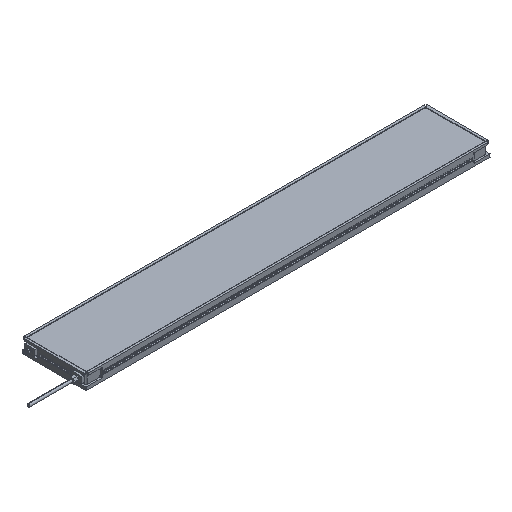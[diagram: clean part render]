
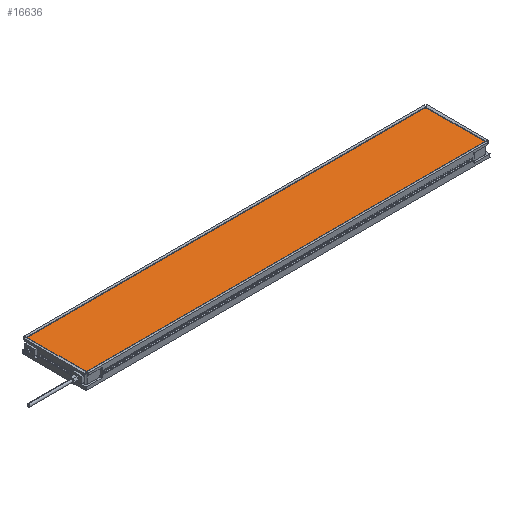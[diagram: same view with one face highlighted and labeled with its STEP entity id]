
A CAD part, isometric view. The second image highlights one B-rep face of the part: STEP entity #16636.
In plain terms, the highlighted planar face has unit normal (0, 0, 1).
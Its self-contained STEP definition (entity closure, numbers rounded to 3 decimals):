
#59 = VERTEX_POINT ( 'NONE', #7379 ) ;
#653 = VECTOR ( 'NONE', #16004, 1000. ) ;
#956 = EDGE_CURVE ( 'NONE', #17287, #59, #13146, .T. ) ;
#1023 = LINE ( 'NONE', #2195, #9323 ) ;
#2058 = EDGE_CURVE ( 'NONE', #14626, #17287, #1023, .T. ) ;
#2195 = CARTESIAN_POINT ( 'NONE',  ( 0., 4., 41.85 ) ) ;
#3042 = VECTOR ( 'NONE', #17516, 1000. ) ;
#4092 = ORIENTED_EDGE ( 'NONE', *, *, #16321, .T. ) ;
#4156 = VECTOR ( 'NONE', #14420, 1000. ) ;
#4594 = ORIENTED_EDGE ( 'NONE', *, *, #15282, .T. ) ;
#4622 = DIRECTION ( 'NONE',  ( -1., 0., 0. ) ) ;
#6026 = LINE ( 'NONE', #11600, #4156 ) ;
#6188 = FACE_OUTER_BOUND ( 'NONE', #17031, .T. ) ;
#6207 = CARTESIAN_POINT ( 'NONE',  ( 4., 4., 41.85 ) ) ;
#7379 = CARTESIAN_POINT ( 'NONE',  ( 1296., 196., 41.85 ) ) ;
#7673 = CARTESIAN_POINT ( 'NONE',  ( 1296., 0., 41.85 ) ) ;
#8687 = CARTESIAN_POINT ( 'NONE',  ( 1296., 4., 41.85 ) ) ;
#9323 = VECTOR ( 'NONE', #12065, 1000. ) ;
#11600 = CARTESIAN_POINT ( 'NONE',  ( 0., 196., 41.85 ) ) ;
#11667 = PLANE ( 'NONE',  #15829 ) ;
#11733 = LINE ( 'NONE', #13004, #653 ) ;
#12065 = DIRECTION ( 'NONE',  ( 1., 0., 0. ) ) ;
#13004 = CARTESIAN_POINT ( 'NONE',  ( 4., 0., 41.85 ) ) ;
#13146 = LINE ( 'NONE', #7673, #3042 ) ;
#13665 = ORIENTED_EDGE ( 'NONE', *, *, #2058, .T. ) ;
#13861 = CARTESIAN_POINT ( 'NONE',  ( 4., 196., 41.85 ) ) ;
#14303 = DIRECTION ( 'NONE',  ( 0., 0., -1. ) ) ;
#14420 = DIRECTION ( 'NONE',  ( -1., 0., 0. ) ) ;
#14585 = CARTESIAN_POINT ( 'NONE',  ( 0., 0., 41.85 ) ) ;
#14626 = VERTEX_POINT ( 'NONE', #6207 ) ;
#15282 = EDGE_CURVE ( 'NONE', #16468, #14626, #11733, .T. ) ;
#15829 = AXIS2_PLACEMENT_3D ( 'NONE', #14585, #14303, #4622 ) ;
#16004 = DIRECTION ( 'NONE',  ( 0., -1., 0. ) ) ;
#16321 = EDGE_CURVE ( 'NONE', #59, #16468, #6026, .T. ) ;
#16468 = VERTEX_POINT ( 'NONE', #13861 ) ;
#16636 = ADVANCED_FACE ( 'NONE', ( #6188 ), #11667, .F. ) ;
#17031 = EDGE_LOOP ( 'NONE', ( #17494, #4092, #4594, #13665 ) ) ;
#17287 = VERTEX_POINT ( 'NONE', #8687 ) ;
#17494 = ORIENTED_EDGE ( 'NONE', *, *, #956, .T. ) ;
#17516 = DIRECTION ( 'NONE',  ( 0., 1., 0. ) ) ;
